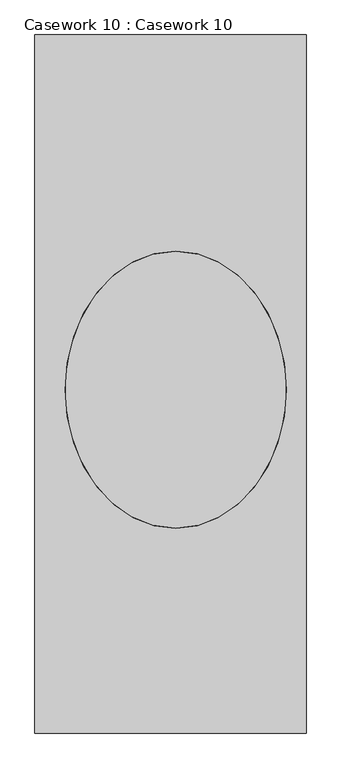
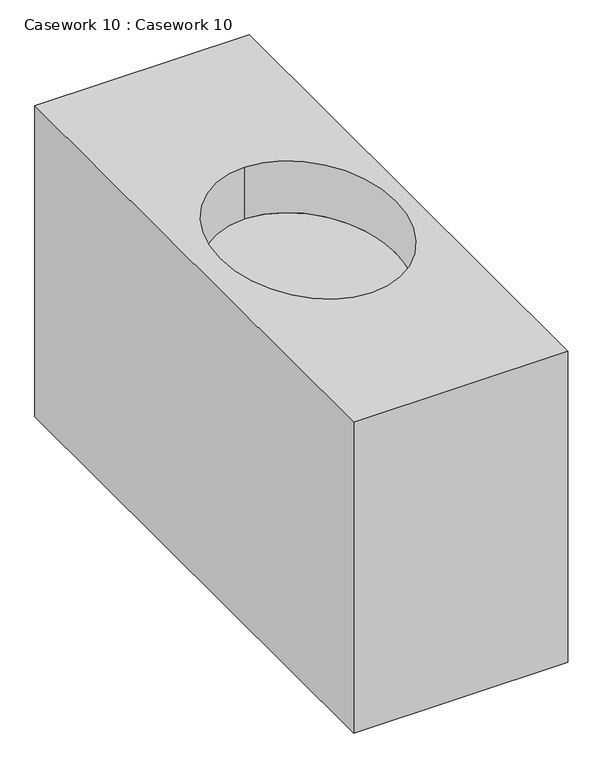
"""IFC4 building model written with IfcOpenShell, lengths in millimetres: furniture geometry, Casework 10 : Casework 10."""

from ifc_helpers import new_model, si_unit, point, frame, origin, place, context, project, spatial, ellipse_curve, trimmed, source, transform, mapped, element, save
from ifc_brep_helpers import plane_surface, extruded_surface, advanced_brep


def casework_10_casework_10_244081dc(model_context):
    return source(origin(), model_context, "Body", "AdvancedBrep", [
        advanced_brep(
        [(-1460.5, 12369.8, 914.4), (-2057.4, 12369.8, 914.4), (-2057.4, 10833.1, 914.4), (-1460.5, 10833.1, 914.4), (-1747.480192, 11893.55, 914.4), (-1747.480192, 11283.95, 914.4), (-1460.5, 12369.8, 0.0), (-1460.5, 10833.1, 0.0), (-2057.4, 10833.1, 0.0), (-2057.4, 12369.8, 0.0), (-1747.480192, 11893.55, 762.0), (-1747.480192, 11283.95, 762.0)],
        [
            (0, 1),
            (1, 2),
            (2, 3),
            (3, 0),
            (4, 5, ellipse_curve(frame((-1747.480192, 11588.75, 914.4), z_axis=(0.0, 0.0, -1.0), x_axis=(0.0, 1.0, 0.0)), 304.8, 243.244808)),
            (5, 4, ellipse_curve(frame((-1747.480192, 11588.75, 914.4), z_axis=(0.0, 0.0, -1.0), x_axis=(0.0, 1.0, 0.0)), 304.8, 243.244808)),
            (6, 7),
            (7, 8),
            (8, 9),
            (9, 6),
            (0, 6),
            (9, 1),
            (8, 2),
            (7, 3),
            (10, 11, ellipse_curve(frame((-1747.480192, 11588.75, 762.0), z_axis=(0.0, 0.0, 1.0), x_axis=(0.0, 1.0, 0.0)), 304.8, 243.244808)),
            (11, 10, ellipse_curve(frame((-1747.480192, 11588.75, 762.0), z_axis=(0.0, 0.0, 1.0), x_axis=(0.0, 1.0, 0.0)), 304.8, 243.244808)),
            (11, 5),
            (4, 10),
        ],
        [
            plane_surface(frame((-2057.4, 12369.8, 914.4), z_axis=(0.0, 0.0, 1.0), x_axis=(-1.0, 0.0, 0.0))),
            plane_surface(frame((-2057.4, 12369.8, 0.0), z_axis=(0.0, 0.0, -1.0), x_axis=(1.0, 0.0, 0.0))),
            plane_surface(frame((-1460.5, 12369.8, 914.4), z_axis=(0.0, 1.0, 0.0), x_axis=(0.0, 0.0, -1.0))),
            plane_surface(frame((-2057.4, 12369.8, 914.4), z_axis=(-1.0, 0.0, 0.0), x_axis=(0.0, 0.0, -1.0))),
            plane_surface(frame((-2057.4, 10833.1, 914.4), z_axis=(0.0, -1.0, 0.0), x_axis=(0.0, 0.0, -1.0))),
            plane_surface(frame((-1460.5, 10833.1, 914.4), z_axis=(1.0, 0.0, 0.0), x_axis=(0.0, 0.0, -1.0))),
            plane_surface(frame((-1747.480192, 11893.55, 762.0), z_axis=(0.0, 0.0, 1.0), x_axis=(1.0, 0.0, 0.0))),
            extruded_surface(trimmed(ellipse_curve(frame((-1747.480192, 11588.75, 914.4), z_axis=(0.0, 0.0, -1.0), x_axis=(0.0, 1.0, 0.0)), 304.8, 243.244808), [point((-1747.480192, 11893.55, 914.4))], [point((-1747.480192, 11283.95, 914.4))], True, "CARTESIAN"), (0.0, 0.0, 152.39999999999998), 152.39999999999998),
            extruded_surface(trimmed(ellipse_curve(frame((-1747.480192, 11588.75, 914.4), z_axis=(0.0, 0.0, -1.0), x_axis=(0.0, 1.0, 0.0)), 304.8, 243.244808), [point((-1747.480192, 11283.95, 914.4))], [point((-1747.480192, 11893.55, 914.4))], True, "CARTESIAN"), (0.0, 0.0, 152.39999999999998), 152.39999999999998),
        ],
        [
            (0, [[1, 2, 3, 4], [5, 6]]),
            (1, [[7, 8, 9, 10]]),
            (2, [[-1, 11, -10, 12]]),
            (3, [[-2, -12, -9, 13]]),
            (4, [[-3, -13, -8, 14]]),
            (5, [[-4, -14, -7, -11]]),
            (6, [[15, 16]]),
            (7, [[-16, 17, -5, 18]]),
            (8, [[-15, -18, -6, -17]]),
        ],
    ),
    ])


if __name__ == "__main__":
    model = new_model("IFC4")
    model_context = context("Model", 3, world=origin())
    ifc_project = project(units=[si_unit("LENGTHUNIT", "METRE", prefix="MILLI")], contexts=[model_context])
    site = spatial("IfcSite", under=ifc_project)
    building = spatial("IfcBuilding", under=site)
    placement = place(None, origin())
    casework_10_casework_10_shape = casework_10_casework_10_244081dc(model_context)
    element("IfcFurniture", 1, ObjectType="Casework 10 : Casework 10", at=placement, inside=building, context=model_context, shape_type="MappedRepresentation", body=[
        mapped(casework_10_casework_10_shape, transform((0.0, 0.0, 0.0), x_axis=(1.0, 0.0, 0.0), y_axis=(0.0, 1.0, 0.0), z_axis=(0.0, 0.0, 1.0))),
    ])
    save(model, "model.ifc")
